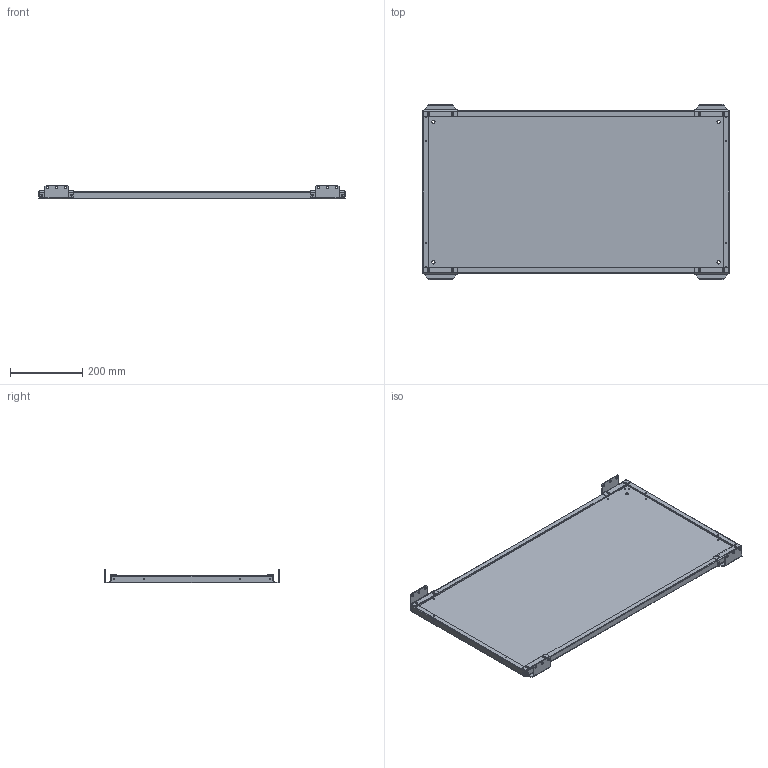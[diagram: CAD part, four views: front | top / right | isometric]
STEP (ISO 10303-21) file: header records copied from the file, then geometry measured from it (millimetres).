
FILE_DESCRIPTION (( 'STEP AP203' ), '1' );
FILE_NAME ('MP 85.45 M Ïàíåëü ìîíòàæíàÿ ñåêöèîííàÿ (ãîðèçîíòàëüíîå êðåïëåíèå).STEP', '2021-04-06T07:12:27', ( '' ), ( '' ), 'SwSTEP 2.0', 'SolidWorks 2018', '' );
FILE_SCHEMA (( 'CONFIG_CONTROL_DESIGN' ));
Length unit declared in the file: millimetre
Products named in the file (1): MP 85.45 M Ïàíåëü ìîíòàæíàÿ ñåêöèîííàÿ (ãîðèçîíòàëüíîå êðåïëåíèå)
Bounding box: 850 x 485 x 37.75 mm (x, y, z)
Volume: 971015.1 mm3; surface area: 981117.5 mm2
Topology: 5 solids, 5 shells, 388 faces, 1016 edges, 632 vertices
Faces by surface type: cylinder 196, plane 168, bspline 16, sphere 8
Entity records: 12713 total; most frequent: CARTESIAN_POINT 2749, DIRECTION 2050, ORIENTED_EDGE 2016, EDGE_CURVE 1008, AXIS2_PLACEMENT_3D 733, VERTEX_POINT 632, VECTOR 584, LINE 584
